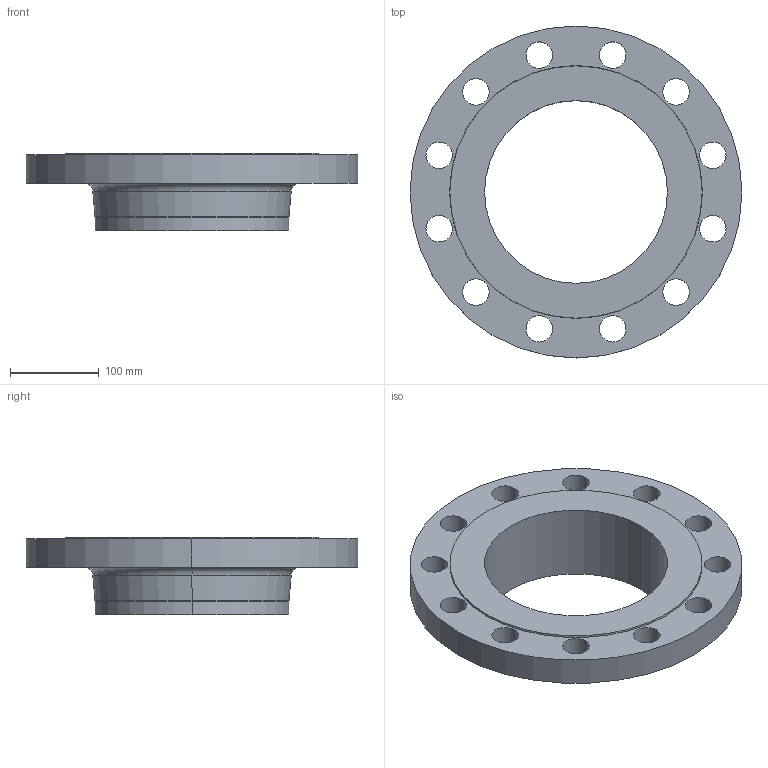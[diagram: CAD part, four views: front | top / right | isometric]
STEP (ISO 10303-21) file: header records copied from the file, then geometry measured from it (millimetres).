
FILE_DESCRIPTION (( 'STEP AP214' ), '1' );
FILE_NAME ('PN40 DN200 Type 11 - Type B Face.STEP', '2019-01-05T02:19:29', ( '' ), ( '' ), 'SwSTEP 2.0', 'SolidWorks 2019', '' );
FILE_SCHEMA (( 'AUTOMOTIVE_DESIGN' ));
Length unit declared in the file: millimetre
Products named in the file (1): PN40 DN200 Type 11 - Type B Face
Bounding box: 375 x 375 x 88 mm (x, y, z)
Volume: 2535734.4 mm3; surface area: 302360.1 mm2
Topology: 1 solids, 1 shells, 42 faces, 108 edges, 70 vertices
Faces by surface type: cylinder 30, cone 4, torus 4, plane 4
Entity records: 1404 total; most frequent: DIRECTION 268, CARTESIAN_POINT 221, ORIENTED_EDGE 216, AXIS2_PLACEMENT_3D 117, EDGE_CURVE 108, CIRCLE 74, VERTEX_POINT 70, EDGE_LOOP 70
